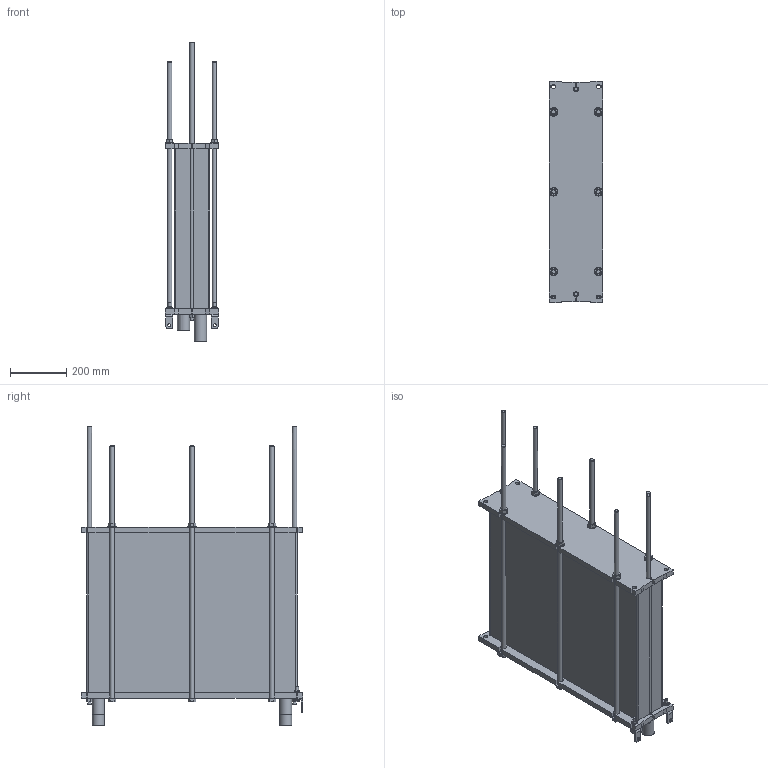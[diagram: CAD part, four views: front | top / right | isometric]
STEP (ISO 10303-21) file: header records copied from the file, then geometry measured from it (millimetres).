
FILE_DESCRIPTION((''),'2;1');
FILE_NAME('C:\temp\TL3_FG_LC950_01_Rev0.stp','2009-09-07T16:03:54',('CNSHFLU'),(''),'Autodesk Inventor 2008','Autodesk Inventor 2008','');
FILE_SCHEMA(('AUTOMOTIVE_DESIGN { 1 2 10303 214 0 1 1 1 }'));
Length unit declared in the file: millimetre
Products named in the file (1): TL3
Bounding box: 190 x 790 x 1069 mm (x, y, z)
Volume: 58935163.3 mm3; surface area: 2154445.4 mm2
Topology: 1 solids, 1 shells, 793 faces, 2161 edges, 1424 vertices
Faces by surface type: plane 559, cylinder 220, cone 14
Full cylindrical faces by diameter (mm): 2.646 x4, 10 x4, 11 x4, 12 x2, 16 x14, 20 x4, 24 x2, 30 x16, 40 x4, 44 x4
Entity records: 24479 total; most frequent: CARTESIAN_POINT 4243, DIRECTION 4127, ORIENTED_EDGE 4114, EDGE_CURVE 2057, VECTOR 1575, LINE 1575, VERTEX_POINT 1392, AXIS2_PLACEMENT_3D 1276
